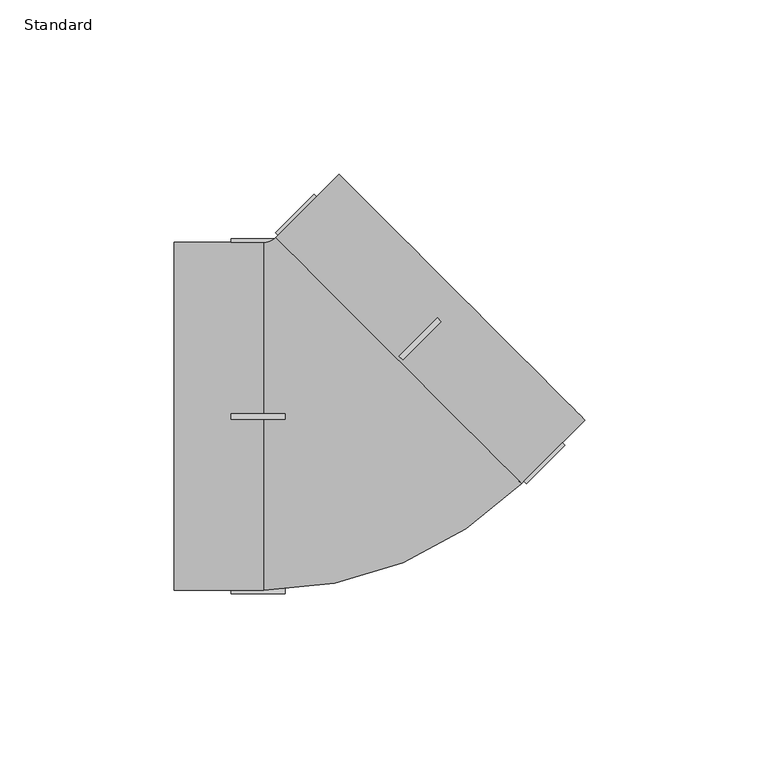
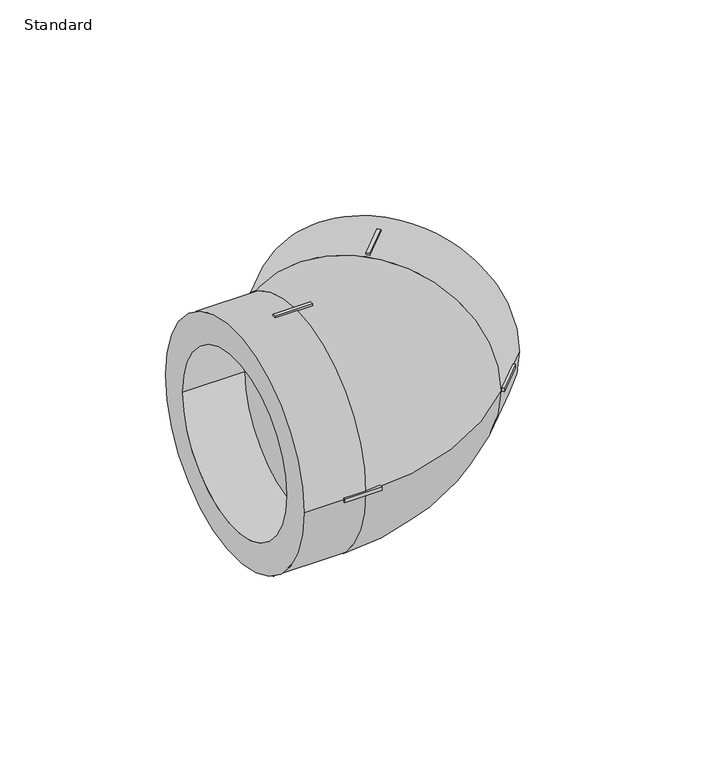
"""IFC4 building model written with IfcOpenShell, lengths in millimetres: pipe fitting geometry, EGB_VASEN_ PPR_Codo 90 WXR200_Codo 45 WXR220  : Standard."""

from ifc_helpers import new_model, si_unit, point, frame, origin, place, context, project, spatial, polyline, circle_curve, ellipse_curve, trimmed, outline, extrude, source, transform, mapped, element, save
from ifc_brep_helpers import plane_surface, cylinder_surface, revolved_surface, advanced_brep


def standard_318af709(model_context):
    return source(origin(), model_context, "Body", "SolidModel", [
        advanced_brep(
        [(-48.5, -50.0, 0.0), (-48.5, 50.0, 0.0), (-48.5, -37.5, 0.0), (-48.5, 37.5, 0.0), (-22.7106781, -50.0, 0.0), (-22.7106781, 50.0, 0.0), (-22.7106781, -37.5, 0.0), (-22.7106781, 37.5, 0.0), (42.5753788, -10.4576298, 0.0), (-10.4576298, 42.5753788, 0.0), (-19.2964646, 51.4142136, 0.0), (51.4142136, -19.2964646, 0.0), (16.0588745, 16.0588745, 50.0), (16.0588745, 16.0588745, -50.0), (69.6500179, -1.0606602, 0.0), (-1.0606602, 69.6500179, 0.0), (60.8111832, 7.7781746, 0.0), (7.7781746, 60.8111832, 0.0)],
        [
            (0, 1, circle_curve(frame((-48.5, 0.0, 0.0), z_axis=(-1.0, 0.0, 0.0), x_axis=(0.0, 1.0, 0.0)), 50.0)),
            (1, 0, circle_curve(frame((-48.5, 0.0, 0.0), z_axis=(-1.0, 0.0, 0.0), x_axis=(0.0, 1.0, 0.0)), 50.0)),
            (2, 3, circle_curve(frame((-48.5, 0.0, 0.0), z_axis=(1.0, 0.0, 0.0), x_axis=(0.0, 1.0, 0.0)), 37.5)),
            (3, 2, circle_curve(frame((-48.5, 0.0, 0.0), z_axis=(1.0, 0.0, 0.0), x_axis=(0.0, 1.0, 0.0)), 37.5)),
            (0, 4),
            (4, 5, circle_curve(frame((-22.7106781, 0.0, 0.0), z_axis=(-1.0, 0.0, 0.0), x_axis=(0.0, 1.0, 0.0)), 50.0)),
            (5, 1),
            (5, 4, circle_curve(frame((-22.7106781, 0.0, 0.0), z_axis=(-1.0, 0.0, 0.0), x_axis=(0.0, 1.0, 0.0)), 50.0)),
            (2, 6),
            (6, 7, circle_curve(frame((-22.7106781, 0.0, 0.0), z_axis=(1.0, 0.0, 0.0), x_axis=(0.0, 1.0, 0.0)), 37.5)),
            (7, 3),
            (7, 6, circle_curve(frame((-22.7106781, 0.0, 0.0), z_axis=(1.0, 0.0, 0.0), x_axis=(0.0, 1.0, 0.0)), 37.5)),
            (8, 9, circle_curve(frame((16.0588745, 16.0588745, 0.0), z_axis=(0.7071067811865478, 0.7071067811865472, 0.0), x_axis=(-0.7071067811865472, 0.7071067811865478, 0.0)), 37.5)),
            (9, 8, circle_curve(frame((16.0588745, 16.0588745, 0.0), z_axis=(0.7071067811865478, 0.7071067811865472, 0.0), x_axis=(-0.7071067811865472, 0.7071067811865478, 0.0)), 37.5)),
            (10, 5, circle_curve(frame((-22.7106781, 54.8284271, 0.0), z_axis=(0.0, 0.0, -1.0), x_axis=(0.0, -1.0, 0.0)), 4.8284271)),
            (4, 11, circle_curve(frame((-22.7106781, 54.8284271, 0.0), z_axis=(0.0, 0.0, 1.0), x_axis=(0.0, -1.0, 0.0)), 104.8284271)),
            (11, 12, circle_curve(frame((16.0588745, 16.0588745, 0.0), z_axis=(-0.7071067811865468, -0.7071067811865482, 0.0), x_axis=(-0.7071067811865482, 0.7071067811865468, 0.0)), 50.0)),
            (12, 10, circle_curve(frame((16.0588745, 16.0588745, 0.0), z_axis=(-0.7071067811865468, -0.7071067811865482, 0.0), x_axis=(-0.7071067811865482, 0.7071067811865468, 0.0)), 50.0)),
            (10, 13, circle_curve(frame((16.0588745, 16.0588745, 0.0), z_axis=(-0.7071067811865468, -0.7071067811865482, 0.0), x_axis=(-0.7071067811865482, 0.7071067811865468, 0.0)), 50.0)),
            (13, 11, circle_curve(frame((16.0588745, 16.0588745, 0.0), z_axis=(-0.7071067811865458, -0.7071067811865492, 0.0), x_axis=(-0.7071067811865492, 0.7071067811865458, 0.0)), 50.0)),
            (14, 15, circle_curve(frame((34.2946789, 34.2946789, 0.0), z_axis=(0.7071067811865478, 0.7071067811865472, 0.0), x_axis=(-0.7071067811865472, 0.7071067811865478, 0.0)), 50.0)),
            (15, 14, circle_curve(frame((34.2946789, 34.2946789, 0.0), z_axis=(0.7071067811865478, 0.7071067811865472, 0.0), x_axis=(-0.7071067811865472, 0.7071067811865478, 0.0)), 50.0)),
            (16, 17, circle_curve(frame((34.2946789, 34.2946789, 0.0), z_axis=(-0.7071067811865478, -0.7071067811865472, 0.0), x_axis=(-0.7071067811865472, 0.7071067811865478, 0.0)), 37.5)),
            (17, 16, circle_curve(frame((34.2946789, 34.2946789, 0.0), z_axis=(-0.7071067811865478, -0.7071067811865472, 0.0), x_axis=(-0.7071067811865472, 0.7071067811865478, 0.0)), 37.5)),
            (15, 10),
            (11, 14),
            (17, 9),
            (8, 16),
        ],
        [
            plane_surface(frame((-48.5, 0.0, 0.0), z_axis=(-1.0, 0.0, 0.0), x_axis=(0.0, 0.0, 1.0))),
            cylinder_surface(frame((-48.5, 0.0, 0.0), z_axis=(-1.0, 0.0, 0.0), x_axis=(0.0, 1.0, 0.0)), 50.0),
            revolved_surface(polyline([(-22.7106781, 37.5, 0.0), (-48.5, 37.5, 0.0)]), (-48.5, 0.0, 0.0), (1.0, 0.0, 0.0)),
            plane_surface(frame((-22.7106781, 0.0, 0.0), z_axis=(-1.0, 0.0, 0.0), x_axis=(0.0, 0.0, 1.0))),
            plane_surface(frame((16.0588745, 16.0588745, 0.0), z_axis=(0.7071067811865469, 0.7071067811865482, 0.0), x_axis=(0.0, 0.0, 1.0))),
            revolved_surface(trimmed(ellipse_curve(frame((-22.7106781, 0.0, 0.0), z_axis=(-1.0, 0.0, 0.0), x_axis=(0.0, 1.0, 0.0)), 50.0, 50.0), [point((-22.7106781, -50.0, 0.0))], [point((-22.7106781, 50.0, 0.0))], True, "CARTESIAN"), (-22.7106781, 54.8284271, 0.0), (0.0, 0.0, 1.0)),
            revolved_surface(trimmed(ellipse_curve(frame((-22.7106781, 0.0, 0.0), z_axis=(-1.0, 0.0, 0.0), x_axis=(0.0, 1.0, 0.0)), 50.0, 50.0), [point((-22.7106781, 50.0, 0.0))], [point((-22.7106781, -50.0, 0.0))], True, "CARTESIAN"), (-22.7106781, 54.8284271, 0.0), (0.0, 0.0, 1.0)),
            plane_surface(frame((34.2946789, 34.2946789, 0.0), z_axis=(0.7071067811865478, 0.7071067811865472, 0.0), x_axis=(0.0, 0.0, 1.0))),
            cylinder_surface(frame((16.0588745, 16.0588745, 0.0), z_axis=(-0.7071067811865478, -0.7071067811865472, 0.0), x_axis=(-0.7071067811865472, 0.7071067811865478, 0.0)), 50.0),
            revolved_surface(polyline([(7.778174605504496, 60.811183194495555, 0.0), (-10.457629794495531, 42.57537879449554, 0.0)]), (16.0588745, 16.0588745, 0.0), (0.7071067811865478, 0.7071067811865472, 0.0)),
        ],
        [
            (0, [[1, 2], [3, 4]]),
            (1, [[-1, 5, 6, 7]]),
            (1, [[-2, -7, 8, -5]]),
            (2, [[-3, 9, 10, 11]]),
            (2, [[-4, -11, 12, -9]]),
            (3, [[-10, -12]]),
            (4, [[13, 14]]),
            (5, [[15, -6, 16, 17, 18]]),
            (6, [[-15, 19, 20, -16, -8]]),
            (7, [[21, 22], [23, 24]]),
            (8, [[-22, 25, -18, -17, 26]]),
            (8, [[-21, -26, -20, -19, -25]]),
            (9, [[-24, 27, -13, 28]]),
            (9, [[-23, -28, -14, -27]]),
        ],
    ),
        extrude(outline(polyline([(17.2963114, 16.2356512), (16.2356512, 17.2963114), (27.266517, 28.3271772), (28.3271772, 27.266517), (17.2963114, 16.2356512)])), frame((0.0, 0.0, 49.0), z_axis=(0.0, 0.0, 1.0), x_axis=(1.0, 0.0, 0.0)), (0.0, 0.0, 1.0), 2.0),
        extrude(outline(polyline([(-17.882251, 51.4142136), (-19.2964646, 52.8284271), (-8.2655988, 63.8592929), (-6.8513852, 62.4450793), (-17.882251, 51.4142136)])), frame((0.0, 0.0, -0.75), z_axis=(0.0, 0.0, 1.0), x_axis=(1.0, 0.0, 0.0)), (0.0, 0.0, 1.0), 1.5),
        extrude(outline(polyline([(52.8284271, -19.2964646), (51.4142136, -17.882251), (62.4450793, -6.8513852), (63.8592929, -8.2655988), (52.8284271, -19.2964646)])), frame((0.0, 0.0, -0.75), z_axis=(0.0, 0.0, 1.0), x_axis=(1.0, 0.0, 0.0)), (0.0, 0.0, 1.0), 1.5),
        extrude(outline(polyline([(17.2963114, 16.2356512), (16.2356512, 17.2963114), (27.266517, 28.3271772), (28.3271772, 27.266517), (17.2963114, 16.2356512)])), frame((0.0, 0.0, -51.0), z_axis=(0.0, 0.0, 1.0), x_axis=(1.0, 0.0, 0.0)), (0.0, 0.0, 1.0), 2.0),
        extrude(outline(polyline([(-16.5106781, 0.75), (-16.5106781, -0.75), (-32.1106781, -0.75), (-32.1106781, 0.75), (-16.5106781, 0.75)])), frame((0.0, 0.0, 49.0), z_axis=(0.0, 0.0, 1.0), x_axis=(1.0, 0.0, 0.0)), (0.0, 0.0, 1.0), 2.0),
        extrude(outline(polyline([(-16.5106781, 0.75), (-16.5106781, -0.75), (-32.1106781, -0.75), (-32.1106781, 0.75), (-16.5106781, 0.75)])), frame((0.0, 0.0, -51.0), z_axis=(0.0, 0.0, 1.0), x_axis=(1.0, 0.0, 0.0)), (0.0, 0.0, 1.0), 2.0),
        extrude(outline(polyline([(-16.5106781, 51.0), (-16.5106781, 49.0), (-32.1106781, 49.0), (-32.1106781, 51.0), (-16.5106781, 51.0)])), frame((0.0, 0.0, -0.75), z_axis=(0.0, 0.0, 1.0), x_axis=(1.0, 0.0, 0.0)), (0.0, 0.0, 1.0), 1.5),
        extrude(outline(polyline([(-16.5106781, -49.0), (-16.5106781, -51.0), (-32.1106781, -51.0), (-32.1106781, -49.0), (-16.5106781, -49.0)])), frame((0.0, 0.0, -0.75), z_axis=(0.0, 0.0, 1.0), x_axis=(1.0, 0.0, 0.0)), (0.0, 0.0, 1.0), 1.5),
    ])


if __name__ == "__main__":
    model = new_model("IFC4")
    model_context = context("Model", 3, world=origin())
    ifc_project = project(units=[si_unit("LENGTHUNIT", "METRE", prefix="MILLI")], contexts=[model_context])
    site = spatial("IfcSite", under=ifc_project)
    building = spatial("IfcBuilding", under=site)
    placement = place(None, origin())
    standard_shape = standard_318af709(model_context)
    element("IfcPipeFitting", 1, ObjectType="EGB_VASEN_ PPR_Codo 90 WXR200_Codo 45 WXR220  : Standard", at=placement, inside=building, context=model_context, shape_type="MappedRepresentation", body=[
        mapped(standard_shape, transform((0.0, 0.0, 0.0), x_axis=(1.0, 0.0, 0.0), y_axis=(0.0, 1.0, 0.0), z_axis=(0.0, 0.0, 1.0))),
    ])
    save(model, "model.ifc")
